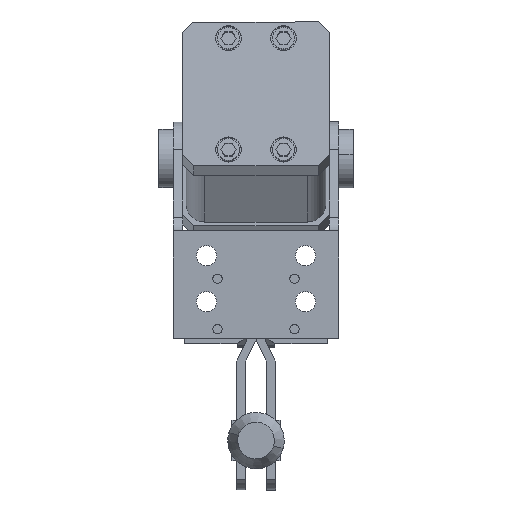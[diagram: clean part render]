
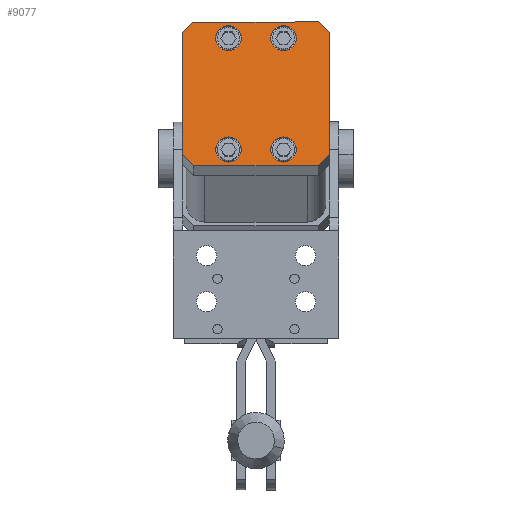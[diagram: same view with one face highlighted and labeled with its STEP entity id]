
A CAD part, front view. The second image highlights one B-rep face of the part: STEP entity #9077.
In plain terms, the highlighted planar face has unit normal (0, -0.979, 0.202) as drawn and (0, 0, -1) by its records, which use the part's own axes.
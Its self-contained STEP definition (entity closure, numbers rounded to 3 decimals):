
#368 = CARTESIAN_POINT ( 'NONE',  ( 37., 0., -81. ) ) ;
#419 = DIRECTION ( 'NONE',  ( 1., 0., 0. ) ) ;
#586 = DIRECTION ( 'NONE',  ( 1., 0., 0. ) ) ;
#1308 = CIRCLE ( 'NONE', #21348, 3.5 ) ;
#1418 = VECTOR ( 'NONE', #7330, 1000. ) ;
#1524 = EDGE_CURVE ( 'NONE', #24245, #20566, #21097, .T. ) ;
#1526 = CARTESIAN_POINT ( 'NONE',  ( 0., 3., -81. ) ) ;
#1729 = FACE_OUTER_BOUND ( 'NONE', #17483, .T. ) ;
#2335 = ORIENTED_EDGE ( 'NONE', *, *, #15414, .T. ) ;
#2418 = EDGE_CURVE ( 'NONE', #13637, #10324, #16003, .T. ) ;
#2489 = VERTEX_POINT ( 'NONE', #7601 ) ;
#2550 = VECTOR ( 'NONE', #6630, 1000. ) ;
#2600 = DIRECTION ( 'NONE',  ( 0., 0., 1. ) ) ;
#2953 = LINE ( 'NONE', #9298, #12601 ) ;
#3771 = ORIENTED_EDGE ( 'NONE', *, *, #8205, .T. ) ;
#3822 = DIRECTION ( 'NONE',  ( 0., 0., 1. ) ) ;
#3940 = ORIENTED_EDGE ( 'NONE', *, *, #2418, .T. ) ;
#4085 = DIRECTION ( 'NONE',  ( 0., 0., 1. ) ) ;
#4272 = DIRECTION ( 'NONE',  ( -0.707, -0.707, 0. ) ) ;
#4356 = CARTESIAN_POINT ( 'NONE',  ( 0., 0., -81. ) ) ;
#4433 = EDGE_CURVE ( 'NONE', #17159, #10568, #7152, .T. ) ;
#4486 = ORIENTED_EDGE ( 'NONE', *, *, #15157, .T. ) ;
#4489 = VERTEX_POINT ( 'NONE', #19273 ) ;
#4656 = EDGE_CURVE ( 'NONE', #20060, #21061, #18290, .T. ) ;
#5162 = EDGE_LOOP ( 'NONE', ( #4486, #3940 ) ) ;
#5609 = ORIENTED_EDGE ( 'NONE', *, *, #11262, .F. ) ;
#5735 = AXIS2_PLACEMENT_3D ( 'NONE', #21787, #10200, #23706 ) ;
#6293 = DIRECTION ( 'NONE',  ( 0., 0., 1. ) ) ;
#6367 = CARTESIAN_POINT ( 'NONE',  ( 40., 0., -81. ) ) ;
#6420 = LINE ( 'NONE', #19816, #10940 ) ;
#6613 = CARTESIAN_POINT ( 'NONE',  ( 16., 35.5, -81. ) ) ;
#6630 = DIRECTION ( 'NONE',  ( -1., 0., 0. ) ) ;
#6840 = FACE_BOUND ( 'NONE', #7834, .T. ) ;
#7152 = LINE ( 'NONE', #1526, #1418 ) ;
#7205 = CIRCLE ( 'NONE', #13677, 3.5 ) ;
#7330 = DIRECTION ( 'NONE',  ( -0.707, 0.707, 0. ) ) ;
#7436 = VECTOR ( 'NONE', #4272, 1000. ) ;
#7503 = PLANE ( 'NONE',  #13331 ) ;
#7601 = CARTESIAN_POINT ( 'NONE',  ( 16., 4.5, -81. ) ) ;
#7834 = EDGE_LOOP ( 'NONE', ( #14394, #21278 ) ) ;
#7929 = DIRECTION ( 'NONE',  ( 0., 0., 1. ) ) ;
#7992 = ORIENTED_EDGE ( 'NONE', *, *, #4656, .T. ) ;
#8047 = CIRCLE ( 'NONE', #5735, 3.5 ) ;
#8113 = VERTEX_POINT ( 'NONE', #11846 ) ;
#8151 = CIRCLE ( 'NONE', #24290, 3.5 ) ;
#8205 = EDGE_CURVE ( 'NONE', #20566, #24245, #8047, .T. ) ;
#9032 = CIRCLE ( 'NONE', #18815, 3.5 ) ;
#9077 = ADVANCED_FACE ( 'NONE', ( #22829, #18294, #11976, #6840, #1729 ), #7503, .F. ) ;
#9265 = DIRECTION ( 'NONE',  ( 0., 0., 1. ) ) ;
#9298 = CARTESIAN_POINT ( 'NONE',  ( 40., 37., -81. ) ) ;
#9376 = ORIENTED_EDGE ( 'NONE', *, *, #12517, .T. ) ;
#9455 = LINE ( 'NONE', #4356, #14573 ) ;
#9757 = AXIS2_PLACEMENT_3D ( 'NONE', #20834, #9265, #22781 ) ;
#10200 = DIRECTION ( 'NONE',  ( 0., 0., 1. ) ) ;
#10324 = VERTEX_POINT ( 'NONE', #22634 ) ;
#10568 = VERTEX_POINT ( 'NONE', #19888 ) ;
#10940 = VECTOR ( 'NONE', #586, 1000. ) ;
#10946 = ORIENTED_EDGE ( 'NONE', *, *, #11835, .F. ) ;
#11171 = ORIENTED_EDGE ( 'NONE', *, *, #13540, .F. ) ;
#11262 = EDGE_CURVE ( 'NONE', #13976, #10568, #9455, .T. ) ;
#11388 = DIRECTION ( 'NONE',  ( -1., 0., 0. ) ) ;
#11489 = CARTESIAN_POINT ( 'NONE',  ( 37., 0., -81. ) ) ;
#11523 = CARTESIAN_POINT ( 'NONE',  ( 31., 35.5, -81. ) ) ;
#11835 = EDGE_CURVE ( 'NONE', #17159, #21061, #6420, .T. ) ;
#11846 = CARTESIAN_POINT ( 'NONE',  ( 3., 40., -81. ) ) ;
#11976 = FACE_BOUND ( 'NONE', #24862, .T. ) ;
#12012 = DIRECTION ( 'NONE',  ( 0., 0., 1. ) ) ;
#12517 = EDGE_CURVE ( 'NONE', #24845, #19068, #8151, .T. ) ;
#12601 = VECTOR ( 'NONE', #20870, 1000. ) ;
#13331 = AXIS2_PLACEMENT_3D ( 'NONE', #21005, #22930, #11388 ) ;
#13540 = EDGE_CURVE ( 'NONE', #20060, #20555, #23207, .T. ) ;
#13637 = VERTEX_POINT ( 'NONE', #6613 ) ;
#13677 = AXIS2_PLACEMENT_3D ( 'NONE', #15349, #3822, #17321 ) ;
#13768 = CARTESIAN_POINT ( 'NONE',  ( 12.5, 4.5, -81. ) ) ;
#13893 = ORIENTED_EDGE ( 'NONE', *, *, #23840, .T. ) ;
#13900 = EDGE_CURVE ( 'NONE', #19068, #24845, #9032, .T. ) ;
#13976 = VERTEX_POINT ( 'NONE', #15774 ) ;
#14230 = DIRECTION ( 'NONE',  ( 0.707, 0.707, 0. ) ) ;
#14394 = ORIENTED_EDGE ( 'NONE', *, *, #17921, .T. ) ;
#14573 = VECTOR ( 'NONE', #15886, 1000. ) ;
#14699 = VECTOR ( 'NONE', #14230, 1000. ) ;
#14752 = CARTESIAN_POINT ( 'NONE',  ( 24., 35.5, -81. ) ) ;
#14823 = CARTESIAN_POINT ( 'NONE',  ( 9., 4.5, -81. ) ) ;
#15102 = CARTESIAN_POINT ( 'NONE',  ( 40., 37., -81. ) ) ;
#15157 = EDGE_CURVE ( 'NONE', #10324, #13637, #7205, .T. ) ;
#15349 = CARTESIAN_POINT ( 'NONE',  ( 12.5, 35.5, -81. ) ) ;
#15414 = EDGE_CURVE ( 'NONE', #13976, #8113, #24998, .T. ) ;
#15607 = CARTESIAN_POINT ( 'NONE',  ( 12.5, 4.5, -81. ) ) ;
#15774 = CARTESIAN_POINT ( 'NONE',  ( 0., 37., -81. ) ) ;
#15886 = DIRECTION ( 'NONE',  ( 0., -1., 0. ) ) ;
#16003 = CIRCLE ( 'NONE', #9757, 3.5 ) ;
#16062 = DIRECTION ( 'NONE',  ( 1., 0., 0. ) ) ;
#17159 = VERTEX_POINT ( 'NONE', #19123 ) ;
#17287 = ORIENTED_EDGE ( 'NONE', *, *, #17510, .F. ) ;
#17321 = DIRECTION ( 'NONE',  ( 1., 0., 0. ) ) ;
#17483 = EDGE_LOOP ( 'NONE', ( #10946, #22341, #5609, #2335, #17287, #13893, #11171, #7992 ) ) ;
#17510 = EDGE_CURVE ( 'NONE', #4489, #8113, #17925, .T. ) ;
#17581 = DIRECTION ( 'NONE',  ( 1., 0., 0. ) ) ;
#17851 = CARTESIAN_POINT ( 'NONE',  ( 27.5, 35.5, -81. ) ) ;
#17921 = EDGE_CURVE ( 'NONE', #20928, #2489, #1308, .T. ) ;
#17925 = LINE ( 'NONE', #21998, #2550 ) ;
#18094 = ORIENTED_EDGE ( 'NONE', *, *, #13900, .T. ) ;
#18113 = CIRCLE ( 'NONE', #20642, 3.5 ) ;
#18276 = CARTESIAN_POINT ( 'NONE',  ( 31., 4.5, -81. ) ) ;
#18290 = LINE ( 'NONE', #368, #7436 ) ;
#18294 = FACE_BOUND ( 'NONE', #18811, .T. ) ;
#18811 = EDGE_LOOP ( 'NONE', ( #20976, #3771 ) ) ;
#18815 = AXIS2_PLACEMENT_3D ( 'NONE', #19149, #7929, #21456 ) ;
#19068 = VERTEX_POINT ( 'NONE', #18276 ) ;
#19123 = CARTESIAN_POINT ( 'NONE',  ( 3., 0., -81. ) ) ;
#19149 = CARTESIAN_POINT ( 'NONE',  ( 27.5, 4.5, -81. ) ) ;
#19273 = CARTESIAN_POINT ( 'NONE',  ( 37., 40., -81. ) ) ;
#19774 = DIRECTION ( 'NONE',  ( 1., 0., 0. ) ) ;
#19816 = CARTESIAN_POINT ( 'NONE',  ( 0., 0., -81. ) ) ;
#19840 = DIRECTION ( 'NONE',  ( 0., 1., 0. ) ) ;
#19881 = VECTOR ( 'NONE', #19840, 1000. ) ;
#19888 = CARTESIAN_POINT ( 'NONE',  ( 0., 3., -81. ) ) ;
#20060 = VERTEX_POINT ( 'NONE', #22756 ) ;
#20555 = VERTEX_POINT ( 'NONE', #15102 ) ;
#20566 = VERTEX_POINT ( 'NONE', #11523 ) ;
#20642 = AXIS2_PLACEMENT_3D ( 'NONE', #15607, #4085, #17581 ) ;
#20834 = CARTESIAN_POINT ( 'NONE',  ( 12.5, 35.5, -81. ) ) ;
#20870 = DIRECTION ( 'NONE',  ( 0.707, -0.707, 0. ) ) ;
#20928 = VERTEX_POINT ( 'NONE', #14823 ) ;
#20976 = ORIENTED_EDGE ( 'NONE', *, *, #1524, .T. ) ;
#21005 = CARTESIAN_POINT ( 'NONE',  ( 0., 0., -81. ) ) ;
#21061 = VERTEX_POINT ( 'NONE', #11489 ) ;
#21097 = CIRCLE ( 'NONE', #22066, 3.5 ) ;
#21278 = ORIENTED_EDGE ( 'NONE', *, *, #22342, .T. ) ;
#21348 = AXIS2_PLACEMENT_3D ( 'NONE', #13768, #2600, #16062 ) ;
#21456 = DIRECTION ( 'NONE',  ( 1., 0., 0. ) ) ;
#21787 = CARTESIAN_POINT ( 'NONE',  ( 27.5, 35.5, -81. ) ) ;
#21998 = CARTESIAN_POINT ( 'NONE',  ( 0., 40., -81. ) ) ;
#22066 = AXIS2_PLACEMENT_3D ( 'NONE', #17851, #6293, #19774 ) ;
#22341 = ORIENTED_EDGE ( 'NONE', *, *, #4433, .T. ) ;
#22342 = EDGE_CURVE ( 'NONE', #2489, #20928, #18113, .T. ) ;
#22634 = CARTESIAN_POINT ( 'NONE',  ( 9., 35.5, -81. ) ) ;
#22756 = CARTESIAN_POINT ( 'NONE',  ( 40., 3., -81. ) ) ;
#22781 = DIRECTION ( 'NONE',  ( 1., 0., 0. ) ) ;
#22829 = FACE_BOUND ( 'NONE', #5162, .T. ) ;
#22930 = DIRECTION ( 'NONE',  ( 0., 0., 1. ) ) ;
#23207 = LINE ( 'NONE', #6367, #19881 ) ;
#23531 = CARTESIAN_POINT ( 'NONE',  ( 27.5, 4.5, -81. ) ) ;
#23706 = DIRECTION ( 'NONE',  ( 1., 0., 0. ) ) ;
#23840 = EDGE_CURVE ( 'NONE', #4489, #20555, #2953, .T. ) ;
#23939 = CARTESIAN_POINT ( 'NONE',  ( 3., 40., -81. ) ) ;
#24245 = VERTEX_POINT ( 'NONE', #14752 ) ;
#24290 = AXIS2_PLACEMENT_3D ( 'NONE', #23531, #12012, #419 ) ;
#24518 = CARTESIAN_POINT ( 'NONE',  ( 24., 4.5, -81. ) ) ;
#24845 = VERTEX_POINT ( 'NONE', #24518 ) ;
#24862 = EDGE_LOOP ( 'NONE', ( #9376, #18094 ) ) ;
#24998 = LINE ( 'NONE', #23939, #14699 ) ;
